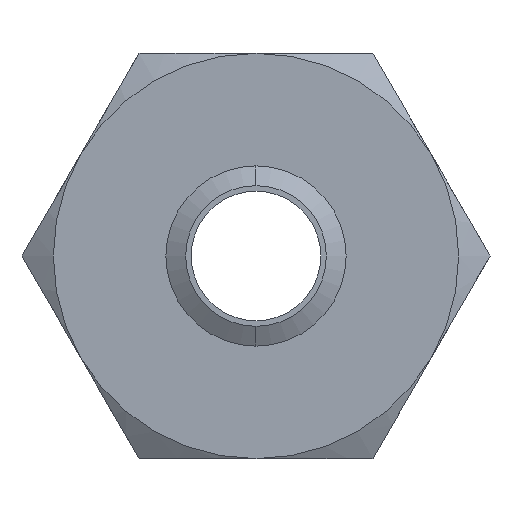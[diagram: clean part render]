
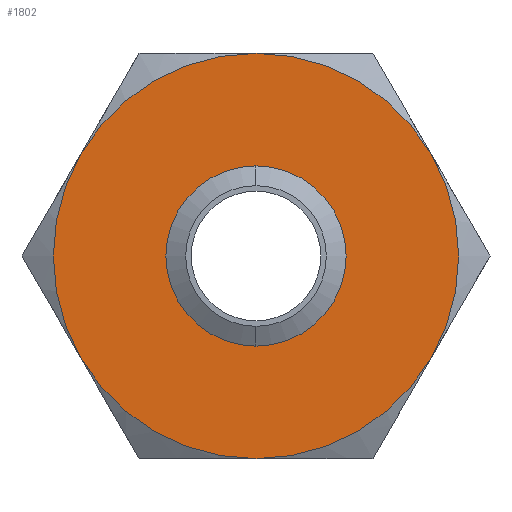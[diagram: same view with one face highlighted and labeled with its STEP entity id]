
A CAD part, front view. The second image highlights one B-rep face of the part: STEP entity #1802.
In plain terms, the highlighted planar face has unit normal (0, -1, 0).
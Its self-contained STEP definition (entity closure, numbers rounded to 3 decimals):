
#136 = EDGE_CURVE ( 'NONE', #137, #148, #635, .T. ) ;
#137 = VERTEX_POINT ( 'NONE', #630 ) ;
#138 = ORIENTED_EDGE ( 'NONE', *, *, #140, .F. ) ;
#139 = ORIENTED_EDGE ( 'NONE', *, *, #136, .F. ) ;
#140 = EDGE_CURVE ( 'NONE', #151, #137, #629, .T. ) ;
#141 = EDGE_LOOP ( 'NONE', ( #142, #143 ) ) ;
#142 = ORIENTED_EDGE ( 'NONE', *, *, #1830, .F. ) ;
#143 = ORIENTED_EDGE ( 'NONE', *, *, #144, .F. ) ;
#144 = EDGE_CURVE ( 'NONE', #1829, #1831, #623, .T. ) ;
#145 = VERTEX_POINT ( 'NONE', #682 ) ;
#146 = ORIENTED_EDGE ( 'NONE', *, *, #147, .F. ) ;
#147 = EDGE_CURVE ( 'NONE', #148, #145, #681, .T. ) ;
#148 = VERTEX_POINT ( 'NONE', #676 ) ;
#149 = EDGE_CURVE ( 'NONE', #145, #1758, #673, .T. ) ;
#150 = EDGE_CURVE ( 'NONE', #1758, #153, #667, .T. ) ;
#151 = VERTEX_POINT ( 'NONE', #663 ) ;
#152 = EDGE_CURVE ( 'NONE', #153, #151, #662, .T. ) ;
#153 = VERTEX_POINT ( 'NONE', #657 ) ;
#154 = ORIENTED_EDGE ( 'NONE', *, *, #150, .F. ) ;
#155 = ORIENTED_EDGE ( 'NONE', *, *, #149, .F. ) ;
#156 = ORIENTED_EDGE ( 'NONE', *, *, #152, .F. ) ;
#623 = CIRCLE ( 'NONE', #1825, 8.673 ) ;
#625 = DIRECTION ( 'NONE',  ( 0., 0., 1. ) ) ;
#626 = DIRECTION ( 'NONE',  ( 0., 1., 0. ) ) ;
#627 = CARTESIAN_POINT ( 'NONE',  ( 0., 0., 0. ) ) ;
#628 = AXIS2_PLACEMENT_3D ( 'NONE', #627, #626, #625 ) ;
#629 = CIRCLE ( 'NONE', #628, 25. ) ;
#630 = CARTESIAN_POINT ( 'NONE',  ( 21.651, 0., -12.5 ) ) ;
#631 = DIRECTION ( 'NONE',  ( 0., 0., 1. ) ) ;
#632 = DIRECTION ( 'NONE',  ( 0., 1., 0. ) ) ;
#633 = CARTESIAN_POINT ( 'NONE',  ( 0., 0., 0. ) ) ;
#634 = AXIS2_PLACEMENT_3D ( 'NONE', #633, #632, #631 ) ;
#635 = CIRCLE ( 'NONE', #634, 25. ) ;
#657 = CARTESIAN_POINT ( 'NONE',  ( 0., 0., 25. ) ) ;
#658 = DIRECTION ( 'NONE',  ( 0., 0., 1. ) ) ;
#659 = DIRECTION ( 'NONE',  ( 0., 1., 0. ) ) ;
#660 = CARTESIAN_POINT ( 'NONE',  ( 0., 0., 0. ) ) ;
#661 = AXIS2_PLACEMENT_3D ( 'NONE', #660, #659, #658 ) ;
#662 = CIRCLE ( 'NONE', #661, 25. ) ;
#663 = CARTESIAN_POINT ( 'NONE',  ( 21.651, 0., 12.5 ) ) ;
#664 = DIRECTION ( 'NONE',  ( 0., 0., 1. ) ) ;
#665 = DIRECTION ( 'NONE',  ( 0., 1., 0. ) ) ;
#666 = AXIS2_PLACEMENT_3D ( 'NONE', #674, #665, #664 ) ;
#667 = CIRCLE ( 'NONE', #666, 25. ) ;
#669 = DIRECTION ( 'NONE',  ( 0., 0., 1. ) ) ;
#670 = DIRECTION ( 'NONE',  ( 0., 1., 0. ) ) ;
#671 = CARTESIAN_POINT ( 'NONE',  ( 0., 0., 0. ) ) ;
#672 = AXIS2_PLACEMENT_3D ( 'NONE', #671, #670, #669 ) ;
#673 = CIRCLE ( 'NONE', #672, 25. ) ;
#674 = CARTESIAN_POINT ( 'NONE',  ( 0., 0., 0. ) ) ;
#676 = CARTESIAN_POINT ( 'NONE',  ( 0., 0., -25. ) ) ;
#677 = DIRECTION ( 'NONE',  ( 0., 0., 1. ) ) ;
#678 = DIRECTION ( 'NONE',  ( 0., 1., 0. ) ) ;
#679 = CARTESIAN_POINT ( 'NONE',  ( 0., 0., 0. ) ) ;
#680 = AXIS2_PLACEMENT_3D ( 'NONE', #679, #678, #677 ) ;
#681 = CIRCLE ( 'NONE', #680, 25. ) ;
#682 = CARTESIAN_POINT ( 'NONE',  ( -21.651, 0., -12.5 ) ) ;
#1340 = CARTESIAN_POINT ( 'NONE',  ( -21.651, 0., 12.5 ) ) ;
#1385 = FACE_OUTER_BOUND ( 'NONE', #1759, .T. ) ;
#1439 = DIRECTION ( 'NONE',  ( 0., 0., 1. ) ) ;
#1440 = DIRECTION ( 'NONE',  ( 0., 1., 0. ) ) ;
#1441 = CARTESIAN_POINT ( 'NONE',  ( 14.434, 0., -25. ) ) ;
#1443 = AXIS2_PLACEMENT_3D ( 'NONE', #1441, #1440, #1439 ) ;
#1444 = PLANE ( 'NONE',  #1443 ) ;
#1445 = FACE_BOUND ( 'NONE', #141, .T. ) ;
#1457 = CARTESIAN_POINT ( 'NONE',  ( 0., 0., -8.673 ) ) ;
#1458 = DIRECTION ( 'NONE',  ( 0., 0., -1. ) ) ;
#1459 = DIRECTION ( 'NONE',  ( 0., -1., 0. ) ) ;
#1460 = CARTESIAN_POINT ( 'NONE',  ( 0., 0., 0. ) ) ;
#1461 = AXIS2_PLACEMENT_3D ( 'NONE', #1460, #1459, #1458 ) ;
#1462 = CIRCLE ( 'NONE', #1461, 8.673 ) ;
#1467 = CARTESIAN_POINT ( 'NONE',  ( 0., 0., 8.673 ) ) ;
#1758 = VERTEX_POINT ( 'NONE', #1340 ) ;
#1759 = EDGE_LOOP ( 'NONE', ( #156, #154, #155, #146, #139, #138 ) ) ;
#1802 = ADVANCED_FACE ( 'NONE', ( #1385, #1445 ), #1444, .F. ) ;
#1823 = DIRECTION ( 'NONE',  ( 0., -1., 0. ) ) ;
#1824 = CARTESIAN_POINT ( 'NONE',  ( 0., 0., 0. ) ) ;
#1825 = AXIS2_PLACEMENT_3D ( 'NONE', #1824, #1823, #1827 ) ;
#1827 = DIRECTION ( 'NONE',  ( 0., 0., -1. ) ) ;
#1829 = VERTEX_POINT ( 'NONE', #1467 ) ;
#1830 = EDGE_CURVE ( 'NONE', #1831, #1829, #1462, .T. ) ;
#1831 = VERTEX_POINT ( 'NONE', #1457 ) ;
